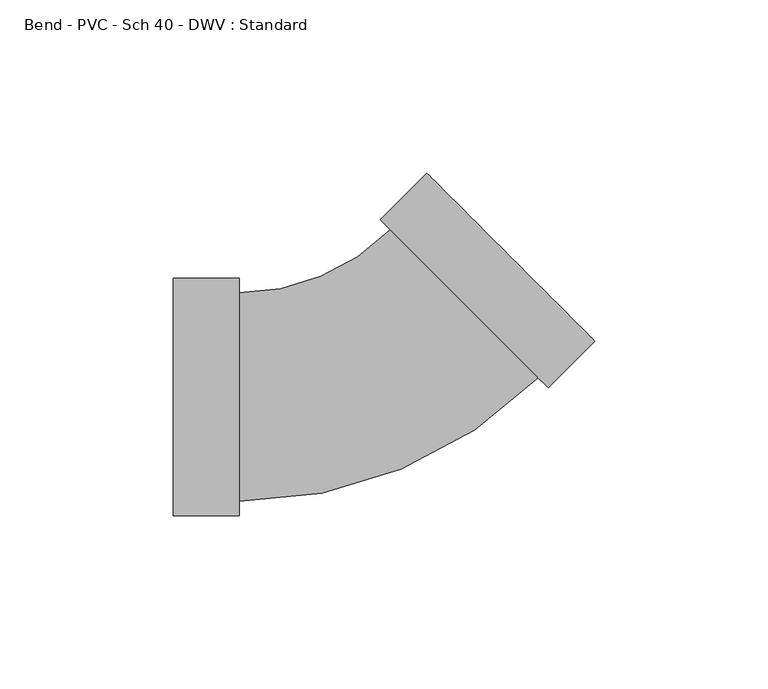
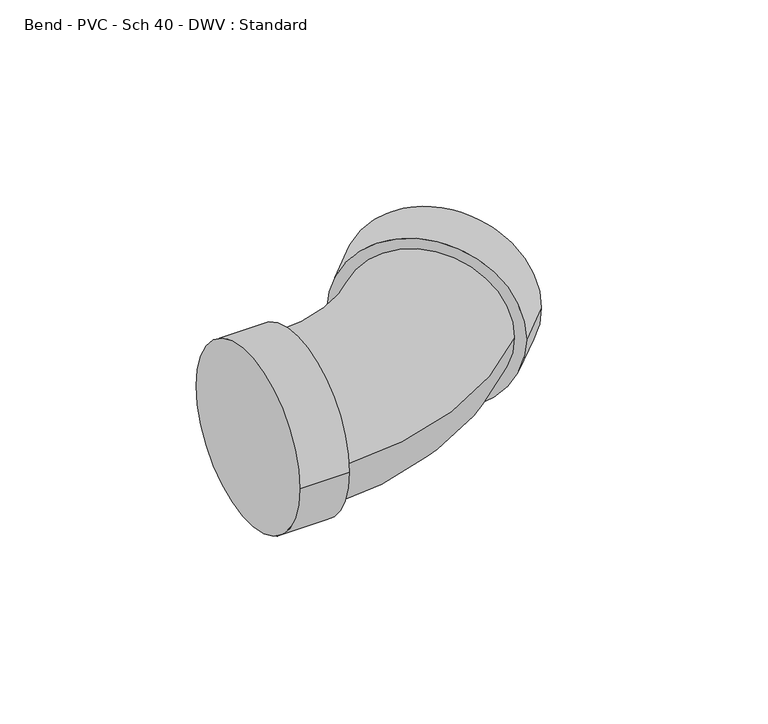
"""IFC4 building model written with IfcOpenShell, lengths in millimetres: pipe fitting geometry, Bend - PVC - Sch 40 - DWV : Standard."""

from ifc_helpers import new_model, si_unit, point, frame, origin, place, context, project, spatial, circle_curve, ellipse_curve, trimmed, source, transform, mapped, element, save
from ifc_brep_helpers import plane_surface, cylinder_surface, revolved_surface, advanced_brep


def bend_pvc_sch_40_dwv_standard_846a7535(model_context):
    return source(origin(), model_context, "Body", "AdvancedBrep", [
        advanced_brep(
        [(-57.15, -34.3154, 0.0), (-57.15, 34.3154, 0.0), (-38.1, -34.3154, 0.0), (-38.1, 34.3154, 0.0), (-38.1, -30.1625, 0.0), (-38.1, 30.1625, 0.0), (5.6126641, 48.2688762, 0.0), (48.2688771, 5.6126561, 0.0), (51.2054206, 2.6761121, 0.0), (2.6761206, 51.2054202, 0.0), (64.6758059, 16.1464951, 0.0), (16.1465059, 64.6758032, 0.0)],
        [
            (0, 1, circle_curve(frame((-57.15, 0.0, 0.0), z_axis=(-1.0, 0.0, 0.0), x_axis=(0.0, 1.0, 0.0)), 34.3154)),
            (1, 0, circle_curve(frame((-57.15, 0.0, 0.0), z_axis=(-1.0, 0.0, 0.0), x_axis=(0.0, 1.0, 0.0)), 34.3154)),
            (2, 3, circle_curve(frame((-38.1, 0.0, 0.0), z_axis=(1.0, 0.0, 0.0), x_axis=(0.0, 1.0, 0.0)), 34.3154)),
            (3, 2, circle_curve(frame((-38.1, 0.0, 0.0), z_axis=(1.0, 0.0, 0.0), x_axis=(0.0, 1.0, 0.0)), 34.3154)),
            (4, 5, circle_curve(frame((-38.1, 0.0, 0.0), z_axis=(-1.0, 0.0, 0.0), x_axis=(0.0, 1.0, 0.0)), 30.1625)),
            (5, 4, circle_curve(frame((-38.1, 0.0, 0.0), z_axis=(-1.0, 0.0, 0.0), x_axis=(0.0, 1.0, 0.0)), 30.1625)),
            (0, 2),
            (3, 1),
            (6, 5, circle_curve(frame((-38.1, 91.9815475, 0.0), z_axis=(0.0, 0.0, -1.0), x_axis=(0.0, -1.0, 0.0)), 61.8190475)),
            (4, 7, circle_curve(frame((-38.1, 91.9815475, 0.0), z_axis=(0.0, 0.0, 1.0), x_axis=(0.0, -1.0, 0.0)), 122.1440475)),
            (7, 6, circle_curve(frame((26.9407706, 26.9407661, 0.0), z_axis=(-0.7071068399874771, -0.707106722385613, 0.0), x_axis=(-0.707106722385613, 0.7071068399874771, 0.0)), 30.1625)),
            (6, 7, circle_curve(frame((26.9407706, 26.9407661, 0.0), z_axis=(-0.7071068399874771, -0.707106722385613, 0.0), x_axis=(-0.707106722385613, 0.7071068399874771, 0.0)), 30.1625)),
            (8, 9, circle_curve(frame((26.9407706, 26.9407661, 0.0), z_axis=(-0.7071068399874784, -0.7071067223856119, 0.0), x_axis=(-0.7071067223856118, 0.7071068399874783, 0.0)), 34.3154)),
            (9, 8, circle_curve(frame((26.9407706, 26.9407661, 0.0), z_axis=(-0.7071068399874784, -0.7071067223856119, 0.0), x_axis=(-0.7071067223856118, 0.7071068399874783, 0.0)), 34.3154)),
            (10, 11, circle_curve(frame((40.4111559, 40.4111492, 0.0), z_axis=(0.7071068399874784, 0.7071067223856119, 0.0), x_axis=(-0.7071067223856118, 0.7071068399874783, 0.0)), 34.3154)),
            (11, 10, circle_curve(frame((40.4111559, 40.4111492, 0.0), z_axis=(0.7071068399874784, 0.7071067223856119, 0.0), x_axis=(-0.7071067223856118, 0.7071068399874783, 0.0)), 34.3154)),
            (8, 10),
            (11, 9),
        ],
        [
            plane_surface(frame((-57.15, 0.0, 0.0), z_axis=(-1.0, 0.0, 0.0), x_axis=(0.0, 0.0, 1.0))),
            plane_surface(frame((-38.1, 0.0, 0.0), z_axis=(1.0, 0.0, 0.0), x_axis=(0.0, 0.0, 1.0))),
            cylinder_surface(frame((-57.15, 0.0, 0.0), z_axis=(-1.0, 0.0, 0.0), x_axis=(0.0, 1.0, 0.0)), 34.3154),
            revolved_surface(trimmed(ellipse_curve(frame((-38.1, 0.0, 0.0), z_axis=(-1.0, 0.0, 0.0), x_axis=(0.0, 1.0, 0.0)), 30.1625, 30.1625), [point((-38.1, -30.1625, 0.0))], [point((-38.1, 30.1625, 0.0))], True, "CARTESIAN"), (-38.1, 91.9815475, 0.0), (0.0, 0.0, 1.0)),
            revolved_surface(trimmed(ellipse_curve(frame((-38.1, 0.0, 0.0), z_axis=(-1.0, 0.0, 0.0), x_axis=(0.0, 1.0, 0.0)), 30.1625, 30.1625), [point((-38.1, 30.1625, 0.0))], [point((-38.1, -30.1625, 0.0))], True, "CARTESIAN"), (-38.1, 91.9815475, 0.0), (0.0, 0.0, 1.0)),
            plane_surface(frame((26.9407706, 26.9407661, 0.0), z_axis=(-0.7071068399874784, -0.7071067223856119, 0.0), x_axis=(0.0, 0.0, 1.0))),
            plane_surface(frame((40.4111559, 40.4111492, 0.0), z_axis=(0.7071068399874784, 0.7071067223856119, 0.0), x_axis=(0.0, 0.0, 1.0))),
            cylinder_surface(frame((26.9407706, 26.9407661, 0.0), z_axis=(-0.7071068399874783, -0.7071067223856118, 0.0), x_axis=(-0.7071067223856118, 0.7071068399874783, 0.0)), 34.3154),
        ],
        [
            (0, [[1, 2]]),
            (1, [[3, 4], [5, 6]]),
            (2, [[-1, 7, -4, 8]]),
            (2, [[-2, -8, -3, -7]]),
            (3, [[9, -5, 10, 11]]),
            (4, [[-9, 12, -10, -6]]),
            (5, [[13, 14], [-11, -12]]),
            (6, [[15, 16]]),
            (7, [[-13, 17, -16, 18]]),
            (7, [[-14, -18, -15, -17]]),
        ],
    ),
    ])


if __name__ == "__main__":
    model = new_model("IFC4")
    model_context = context("Model", 3, world=origin())
    ifc_project = project(units=[si_unit("LENGTHUNIT", "METRE", prefix="MILLI")], contexts=[model_context])
    site = spatial("IfcSite", under=ifc_project)
    building = spatial("IfcBuilding", under=site)
    placement = place(None, origin())
    bend_pvc_sch_40_dwv_standard_shape = bend_pvc_sch_40_dwv_standard_846a7535(model_context)
    element("IfcPipeFitting", 1, ObjectType="Bend - PVC - Sch 40 - DWV : Standard", at=placement, inside=building, context=model_context, shape_type="MappedRepresentation", body=[
        mapped(bend_pvc_sch_40_dwv_standard_shape, transform((0.0, 0.0, 0.0), x_axis=(1.0, 0.0, 0.0), y_axis=(0.0, 1.0, 0.0), z_axis=(0.0, 0.0, 1.0))),
    ])
    save(model, "model.ifc")
